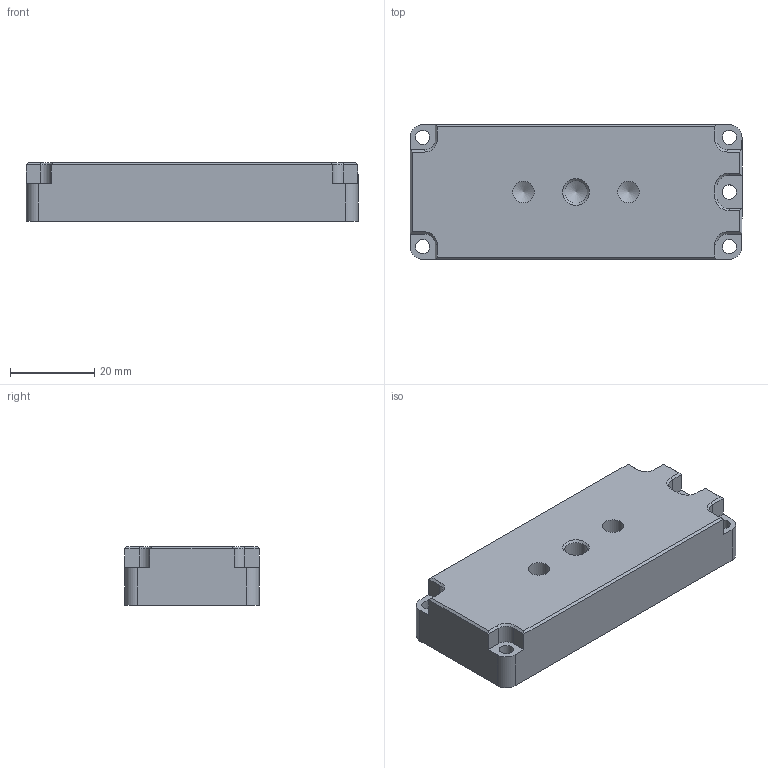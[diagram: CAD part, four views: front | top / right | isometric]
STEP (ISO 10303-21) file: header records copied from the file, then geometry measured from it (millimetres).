
FILE_DESCRIPTION((''),'2;1');
FILE_NAME('K:\Inventor\Kamerafamilien\Pike\Einzelteile\K5000748_Pike_Tripod.stp','2010-08-27T09:50:34',('mressin'),(''),'Autodesk Inventor 2011','Autodesk Inventor 2011','');
FILE_SCHEMA(('AUTOMOTIVE_DESIGN { 1 0 10303 214 1 1 1 1 }'));
Length unit declared in the file: millimetre
Products named in the file (1): K5000748_Pike_Tripod-Serie
Bounding box: 79 x 32 x 14 mm (x, y, z)
Volume: 33337.4 mm3; surface area: 8915.9 mm2
Topology: 1 solids, 1 shells, 66 faces, 167 edges, 103 vertices
Faces by surface type: plane 38, cylinder 18, cone 10
Full cylindrical faces by diameter (mm): 3.4 x5, 5.134 x2, 5.368 x1
Entity records: 1904 total; most frequent: DIRECTION 328, CARTESIAN_POINT 317, ORIENTED_EDGE 302, EDGE_CURVE 151, AXIS2_PLACEMENT_3D 110, VECTOR 108, LINE 108, VERTEX_POINT 99
